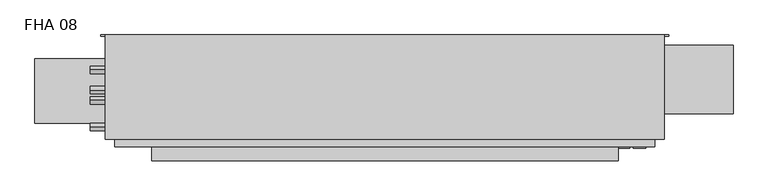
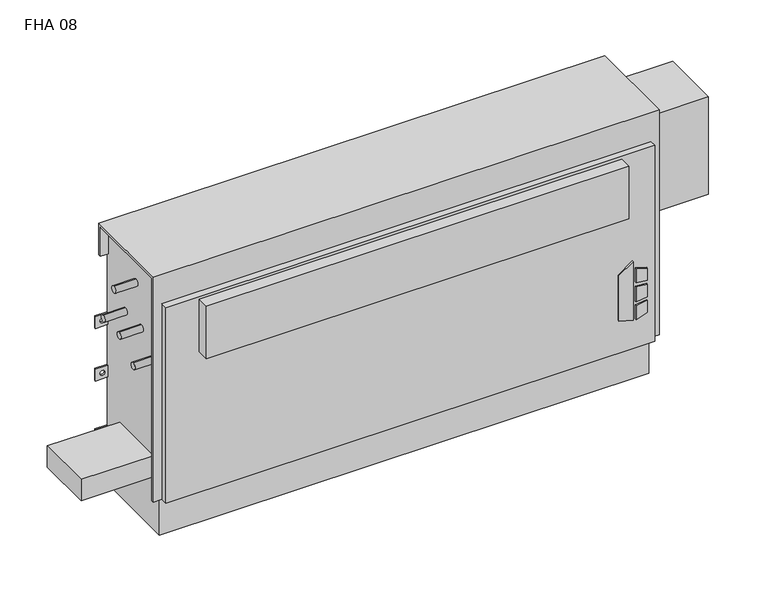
"""IFC4 building model written with IfcOpenShell, lengths in millimetres: proxy geometry, Vertical_Fan_Coil_Unit_-_FHA_-_IEC_-_4-Pipe_FS-FR_LH_2022 : FHA 08."""

from ifc_helpers import new_model, si_unit, point, frame, frame_2d, origin, place, context, project, spatial, polyline, circle_curve, trimmed, segment, composite_curve, outline, extrude, source, transform, mapped, element, save
from ifc_brep_helpers import plane_surface, revolved_surface, advanced_brep


def fha_08_1924b849(model_context):
    return source(origin(), model_context, "Body", "SolidModel", [
        extrude(outline(polyline([(172.5771459, 627.1368862), (162.6290756, 659.3102728), (304.8, 659.3102728), (281.7779939, 627.1368862), (172.5771459, 627.1368862)])), frame((0.0, 9.525, 0.0), z_axis=(0.0, 1.0, 0.0), x_axis=(0.0, 0.0, 1.0)), (0.0, 0.0, 1.0), 3.175),
        extrude(outline(polyline([(251.5764313, 666.0686058), (248.3740387, 692.15), (277.6028798, 692.15), (285.6672948, 666.0686058), (251.5764313, 666.0686058)])), frame((0.0, 9.525, 0.0), z_axis=(0.0, 1.0, 0.0), x_axis=(0.0, 0.0, 1.0)), (0.0, 0.0, 1.0), 3.175),
        extrude(outline(polyline([(199.7129044, 692.15), (196.0474034, 666.0686058), (162.6290756, 666.0686058), (171.2633128, 692.15), (199.7129044, 692.15)])), frame((0.0, 9.525, 0.0), z_axis=(0.0, 1.0, 0.0), x_axis=(0.0, 0.0, 1.0)), (0.0, 0.0, 1.0), 3.175),
        extrude(outline(polyline([(239.0280658, 692.15), (241.3098921, 666.0686058), (205.3723436, 666.0686058), (208.1136086, 692.15), (239.0280658, 692.15)])), frame((0.0, 9.525, 0.0), z_axis=(0.0, 1.0, 0.0), x_axis=(0.0, 0.0, 1.0)), (0.0, 0.0, 1.0), 3.175),
        extrude(outline(composite_curve([segment(trimmed(circle_curve(frame_2d((-469.9, 128.5875)), 9.525), [point((-479.425, 128.5875))], [point((-460.375, 128.5875))], False, "CARTESIAN"), True, "CONTINUOUS"), segment(trimmed(circle_curve(frame_2d((-469.9, 128.5875)), 9.525), [point((-460.375, 128.5875))], [point((-479.425, 128.5875))], False, "CARTESIAN"), True, "CONTINUOUS")], self_intersect=False)), frame((0.0, 0.0, 101.6), z_axis=(0.0, 0.0, 1.0), x_axis=(1.0, 0.0, 0.0)), (0.0, 0.0, 1.0), 25.4),
        extrude(outline(polyline([(-571.5, 61.9125), (-571.5, 195.2625), (-406.4, 195.2625), (-406.4, 61.9125), (-571.5, 61.9125)])), frame((0.0, 0.0, 127.0), z_axis=(0.0, 0.0, 1.0), x_axis=(1.0, 0.0, 0.0)), (0.0, 0.0, 1.0), 50.8),
        extrude(outline(polyline([(635.0, -15.875), (-330.2, -15.875), (-330.2, 12.7), (635.0, 12.7), (635.0, -15.875)])), frame((0.0, 0.0, 431.8), z_axis=(0.0, 0.0, 1.0), x_axis=(1.0, 0.0, 0.0)), (0.0, 0.0, 1.0), 127.0),
        extrude(outline(composite_curve([segment(trimmed(circle_curve(frame_2d((109.0168, 457.2)), 7.9375), [point((109.0168, 465.1375))], [point((109.0168, 449.2625))], False, "CARTESIAN"), True, "CONTINUOUS"), segment(trimmed(circle_curve(frame_2d((109.0168, 457.2)), 7.9375), [point((109.0168, 449.2625))], [point((109.0168, 465.1375))], False, "CARTESIAN"), True, "CONTINUOUS")], self_intersect=False)), frame((-457.2, 0.0, 0.0), z_axis=(1.0, 0.0, 0.0), x_axis=(0.0, 1.0, 0.0)), (0.0, 0.0, 1.0), 50.8),
        extrude(outline(composite_curve([segment(trimmed(circle_curve(frame_2d((172.085, 460.0194)), 7.9375), [point((172.085, 467.9569))], [point((172.085, 452.0819))], False, "CARTESIAN"), True, "CONTINUOUS"), segment(trimmed(circle_curve(frame_2d((172.085, 460.0194)), 7.9375), [point((172.085, 452.0819))], [point((172.085, 467.9569))], False, "CARTESIAN"), True, "CONTINUOUS")], self_intersect=False)), frame((-457.2, 0.0, 0.0), z_axis=(1.0, 0.0, 0.0), x_axis=(0.0, 1.0, 0.0)), (0.0, 0.0, 1.0), 50.8),
        extrude(outline(composite_curve([segment(trimmed(circle_curve(frame_2d((130.175, 554.99)), 7.9502), [point((130.175, 562.9402))], [point((130.175, 547.0398))], False, "CARTESIAN"), True, "CONTINUOUS"), segment(trimmed(circle_curve(frame_2d((130.175, 554.99)), 7.9502), [point((130.175, 547.0398))], [point((130.175, 562.9402))], False, "CARTESIAN"), True, "CONTINUOUS")], self_intersect=False)), frame((-457.2, 0.0, 0.0), z_axis=(1.0, 0.0, 0.0), x_axis=(0.0, 1.0, 0.0)), (0.0, 0.0, 1.0), 50.8),
        extrude(outline(composite_curve([segment(trimmed(circle_curve(frame_2d((53.975, 416.56)), 7.9502), [point((53.975, 424.5102))], [point((53.975, 408.6098))], False, "CARTESIAN"), True, "CONTINUOUS"), segment(trimmed(circle_curve(frame_2d((53.975, 416.56)), 7.9502), [point((53.975, 408.6098))], [point((53.975, 424.5102))], False, "CARTESIAN"), True, "CONTINUOUS")], self_intersect=False)), frame((-457.2, 0.0, 0.0), z_axis=(1.0, 0.0, 0.0), x_axis=(0.0, 1.0, 0.0)), (0.0, 0.0, 1.0), 50.8),
        extrude(outline(polyline([(873.125, 223.266), (873.125, 81.534), (711.2, 81.534), (711.2, 223.266), (873.125, 223.266)])), frame((0.0, 0.0, 349.25), z_axis=(0.0, 0.0, 1.0), x_axis=(1.0, 0.0, 0.0)), (0.0, 0.0, 1.0), 234.95),
        advanced_brep(
        [(730.25, 244.475, 635.0), (-425.45, 244.475, 635.0), (-425.45, 28.575, 635.0), (730.25, 28.575, 635.0), (-406.4, 244.475, 0.0), (711.2, 244.475, 0.0), (711.2, 38.1, 0.0), (-406.4, 38.1, 0.0), (730.25, 244.475, 558.8), (711.2, 244.475, 558.8), (711.2, 244.475, 414.3375), (739.775, 244.475, 414.3375), (739.775, 244.475, 385.7625), (711.2, 244.475, 385.7625), (711.2, 244.475, 287.3375), (739.775, 244.475, 287.3375), (739.775, 244.475, 258.7625), (711.2, 244.475, 258.7625), (711.2, 244.475, 141.2875), (739.775, 244.475, 141.2875), (739.775, 244.475, 112.7125), (711.2, 244.475, 112.7125), (-406.4, 244.475, 112.7125), (-434.975, 244.475, 112.7125), (-434.975, 244.475, 141.2875), (-406.4, 244.475, 141.2875), (-406.4, 244.475, 258.7625), (-434.975, 244.475, 258.7625), (-434.975, 244.475, 287.3375), (-406.4, 244.475, 287.3375), (-406.4, 244.475, 385.7625), (-434.975, 244.475, 385.7625), (-434.975, 244.475, 414.3375), (-406.4, 244.475, 414.3375), (-406.4, 244.475, 558.8), (-425.45, 244.475, 558.8), (729.4626, 244.475, 127.0), (718.3374, 244.475, 127.0), (-413.5374, 244.475, 127.0), (-424.6626, 244.475, 127.0), (729.4626, 244.475, 273.05), (718.3374, 244.475, 273.05), (-413.5374, 244.475, 273.05), (-424.6626, 244.475, 273.05), (729.4626, 244.475, 400.05), (718.3374, 244.475, 400.05), (-413.5374, 244.475, 400.05), (-424.6626, 244.475, 400.05), (-425.45, 238.125, 558.8), (-425.45, 238.125, 628.65), (-425.45, 34.925, 628.65), (-425.45, 34.925, 92.075), (-425.45, 28.575, 92.075), (711.2, 12.7, 565.15), (-406.4, 12.7, 565.15), (-406.4, 12.7, 92.075), (711.2, 12.7, 92.075), (730.25, 28.575, 92.075), (730.25, 34.925, 92.075), (730.25, 34.925, 628.65), (730.25, 238.125, 628.65), (730.25, 238.125, 558.8), (-406.4, 28.575, 92.075), (-406.4, 28.575, 565.15), (711.2, 28.575, 565.15), (711.2, 28.575, 92.075), (-406.4, 34.925, 92.075), (-406.4, 38.1, 92.075), (711.2, 38.1, 92.075), (711.2, 34.925, 92.075), (711.2, 241.3, 112.7125), (711.2, 241.3, 141.2875), (711.2, 241.3, 258.7625), (711.2, 241.3, 287.3375), (711.2, 241.3, 385.7625), (711.2, 241.3, 414.3375), (711.2, 238.125, 558.8), (711.2, 238.125, 628.65), (711.2, 34.925, 628.65), (-406.4, 34.925, 628.65), (-406.4, 238.125, 628.65), (-406.4, 238.125, 558.8), (-406.4, 241.3, 414.3375), (-406.4, 241.3, 385.7625), (-406.4, 241.3, 287.3375), (-406.4, 241.3, 258.7625), (-406.4, 241.3, 141.2875), (-406.4, 241.3, 112.7125), (739.775, 241.3, 112.7125), (739.775, 241.3, 141.2875), (718.3374, 241.3, 127.0), (729.4626, 241.3, 127.0), (739.775, 241.3, 258.7625), (739.775, 241.3, 287.3375), (718.3374, 241.3, 273.05), (729.4626, 241.3, 273.05), (739.775, 241.3, 385.7625), (739.775, 241.3, 414.3375), (718.3374, 241.3, 400.05), (729.4626, 241.3, 400.05), (-434.975, 241.3, 141.2875), (-434.975, 241.3, 112.7125), (-424.6626, 241.3, 127.0), (-413.5374, 241.3, 127.0), (-434.975, 241.3, 287.3375), (-434.975, 241.3, 258.7625), (-424.6626, 241.3, 273.05), (-413.5374, 241.3, 273.05), (-434.975, 241.3, 414.3375), (-434.975, 241.3, 385.7625), (-424.6626, 241.3, 400.05), (-413.5374, 241.3, 400.05)],
        [
            (0, 1),
            (1, 2),
            (2, 3),
            (3, 0),
            (4, 5),
            (5, 6),
            (6, 7),
            (7, 4),
            (0, 8),
            (8, 9),
            (9, 10),
            (10, 11),
            (11, 12),
            (12, 13),
            (13, 14),
            (14, 15),
            (15, 16),
            (16, 17),
            (17, 18),
            (18, 19),
            (19, 20),
            (20, 21),
            (21, 5),
            (4, 22),
            (22, 23),
            (23, 24),
            (24, 25),
            (25, 26),
            (26, 27),
            (27, 28),
            (28, 29),
            (29, 30),
            (30, 31),
            (31, 32),
            (32, 33),
            (33, 34),
            (34, 35),
            (35, 1),
            (36, 37, circle_curve(frame((723.9, 244.475, 127.0), z_axis=(0.0, -1.0, 0.0), x_axis=(-1.0, 0.0, 0.0)), 5.5626)),
            (37, 36, circle_curve(frame((723.9, 244.475, 127.0), z_axis=(0.0, -1.0, 0.0), x_axis=(-1.0, 0.0, 0.0)), 5.5626)),
            (38, 39, circle_curve(frame((-419.1, 244.475, 127.0), z_axis=(0.0, -1.0, 0.0), x_axis=(-1.0, 0.0, 0.0)), 5.5626)),
            (39, 38, circle_curve(frame((-419.1, 244.475, 127.0), z_axis=(0.0, -1.0, 0.0), x_axis=(-1.0, 0.0, 0.0)), 5.5626)),
            (40, 41, circle_curve(frame((723.9, 244.475, 273.05), z_axis=(0.0, -1.0, 0.0), x_axis=(-1.0, 0.0, 0.0)), 5.5626)),
            (41, 40, circle_curve(frame((723.9, 244.475, 273.05), z_axis=(0.0, -1.0, 0.0), x_axis=(-1.0, 0.0, 0.0)), 5.5626)),
            (42, 43, circle_curve(frame((-419.1, 244.475, 273.05), z_axis=(0.0, -1.0, 0.0), x_axis=(-1.0, 0.0, 0.0)), 5.5626)),
            (43, 42, circle_curve(frame((-419.1, 244.475, 273.05), z_axis=(0.0, -1.0, 0.0), x_axis=(-1.0, 0.0, 0.0)), 5.5626)),
            (44, 45, circle_curve(frame((723.9, 244.475, 400.05), z_axis=(0.0, -1.0, 0.0), x_axis=(-1.0, 0.0, 0.0)), 5.5626)),
            (45, 44, circle_curve(frame((723.9, 244.475, 400.05), z_axis=(0.0, -1.0, 0.0), x_axis=(-1.0, 0.0, 0.0)), 5.5626)),
            (46, 47, circle_curve(frame((-419.1, 244.475, 400.05), z_axis=(0.0, -1.0, 0.0), x_axis=(-1.0, 0.0, 0.0)), 5.5626)),
            (47, 46, circle_curve(frame((-419.1, 244.475, 400.05), z_axis=(0.0, -1.0, 0.0), x_axis=(-1.0, 0.0, 0.0)), 5.5626)),
            (35, 48),
            (48, 49),
            (49, 50),
            (50, 51),
            (51, 52),
            (52, 2),
            (53, 54),
            (54, 55),
            (55, 56),
            (56, 53),
            (3, 57),
            (57, 58),
            (58, 59),
            (59, 60),
            (60, 61),
            (61, 8),
            (52, 62),
            (62, 63),
            (63, 64),
            (64, 65),
            (65, 57),
            (53, 64),
            (63, 54),
            (55, 62),
            (51, 66),
            (66, 67),
            (67, 68),
            (68, 69),
            (69, 58),
            (65, 56),
            (6, 68),
            (67, 7),
            (21, 70),
            (70, 71),
            (71, 18),
            (17, 72),
            (72, 73),
            (73, 14),
            (13, 74),
            (74, 75),
            (75, 10),
            (9, 76),
            (76, 77),
            (77, 78),
            (78, 69),
            (66, 79),
            (79, 80),
            (80, 81),
            (81, 34),
            (33, 82),
            (82, 83),
            (83, 30),
            (29, 84),
            (84, 85),
            (85, 26),
            (25, 86),
            (86, 87),
            (87, 22),
            (76, 61),
            (60, 77),
            (78, 59),
            (50, 79),
            (81, 48),
            (80, 49),
            (70, 88),
            (88, 89),
            (89, 71),
            (90, 91, circle_curve(frame((723.9, 241.3, 127.0), z_axis=(0.0, 1.0, 0.0), x_axis=(-1.0, 0.0, 0.0)), 5.5626)),
            (91, 90, circle_curve(frame((723.9, 241.3, 127.0), z_axis=(0.0, 1.0, 0.0), x_axis=(-1.0, 0.0, 0.0)), 5.5626)),
            (92, 93),
            (93, 73),
            (72, 92),
            (94, 95, circle_curve(frame((723.9, 241.3, 273.05), z_axis=(0.0, 1.0, 0.0), x_axis=(-1.0, 0.0, 0.0)), 5.5626)),
            (95, 94, circle_curve(frame((723.9, 241.3, 273.05), z_axis=(0.0, 1.0, 0.0), x_axis=(-1.0, 0.0, 0.0)), 5.5626)),
            (96, 97),
            (97, 75),
            (74, 96),
            (98, 99, circle_curve(frame((723.9, 241.3, 400.05), z_axis=(0.0, 1.0, 0.0), x_axis=(-1.0, 0.0, 0.0)), 5.5626)),
            (99, 98, circle_curve(frame((723.9, 241.3, 400.05), z_axis=(0.0, 1.0, 0.0), x_axis=(-1.0, 0.0, 0.0)), 5.5626)),
            (100, 101),
            (101, 87),
            (86, 100),
            (102, 103, circle_curve(frame((-419.1, 241.3, 127.0), z_axis=(0.0, 1.0, 0.0), x_axis=(-1.0, 0.0, 0.0)), 5.5626)),
            (103, 102, circle_curve(frame((-419.1, 241.3, 127.0), z_axis=(0.0, 1.0, 0.0), x_axis=(-1.0, 0.0, 0.0)), 5.5626)),
            (84, 104),
            (104, 105),
            (105, 85),
            (106, 107, circle_curve(frame((-419.1, 241.3, 273.05), z_axis=(0.0, 1.0, 0.0), x_axis=(-1.0, 0.0, 0.0)), 5.5626)),
            (107, 106, circle_curve(frame((-419.1, 241.3, 273.05), z_axis=(0.0, 1.0, 0.0), x_axis=(-1.0, 0.0, 0.0)), 5.5626)),
            (108, 109),
            (109, 83),
            (82, 108),
            (110, 111, circle_curve(frame((-419.1, 241.3, 400.05), z_axis=(0.0, 1.0, 0.0), x_axis=(-1.0, 0.0, 0.0)), 5.5626)),
            (111, 110, circle_curve(frame((-419.1, 241.3, 400.05), z_axis=(0.0, 1.0, 0.0), x_axis=(-1.0, 0.0, 0.0)), 5.5626)),
            (89, 19),
            (88, 20),
            (16, 92),
            (93, 15),
            (12, 96),
            (97, 11),
            (24, 100),
            (101, 23),
            (105, 27),
            (104, 28),
            (32, 108),
            (109, 31),
            (90, 37),
            (36, 91),
            (102, 39),
            (38, 103),
            (94, 41),
            (40, 95),
            (106, 43),
            (42, 107),
            (98, 45),
            (44, 99),
            (110, 47),
            (46, 111),
        ],
        [
            plane_surface(frame((-425.45, 244.475, 635.0), z_axis=(0.0, 0.0, 1.0), x_axis=(-1.0, 0.0, 0.0))),
            plane_surface(frame((-425.45, 244.475, 0.0), z_axis=(0.0, 0.0, -1.0), x_axis=(1.0, 0.0, 0.0))),
            plane_surface(frame((730.25, 244.475, 635.0), z_axis=(0.0, 1.0, 0.0), x_axis=(0.0, 0.0, -1.0))),
            plane_surface(frame((-425.45, 244.475, 635.0), z_axis=(-1.0, 0.0, 0.0), x_axis=(0.0, 0.0, -1.0))),
            plane_surface(frame((-425.45, 12.7, 635.0), z_axis=(0.0, -1.0, 0.0), x_axis=(0.0, 0.0, -1.0))),
            plane_surface(frame((730.25, 12.7, 635.0), z_axis=(1.0, 0.0, 0.0), x_axis=(0.0, 0.0, -1.0))),
            plane_surface(frame((-704.85, 28.575, 635.0), z_axis=(0.0, -1.0, 0.0), x_axis=(1.0, 0.0, 0.0))),
            plane_surface(frame((-704.85, 28.575, 565.15), z_axis=(0.0, 0.0, 1.0), x_axis=(1.0, 0.0, 0.0))),
            plane_surface(frame((-425.45, 12.7, 92.075), z_axis=(0.0, 0.0, -1.0), x_axis=(1.0, 0.0, 0.0))),
            plane_surface(frame((-425.45, 38.1, 92.075), z_axis=(0.0, -1.0, 0.0), x_axis=(1.0, 0.0, 0.0))),
            plane_surface(frame((711.2, 28.575, 92.075), z_axis=(1.0, 0.0, 0.0), x_axis=(0.0, -1.0, 0.0))),
            plane_surface(frame((-406.4, 28.575, 565.15), z_axis=(-1.0, 0.0, 0.0), x_axis=(0.0, -1.0, 0.0))),
            plane_surface(frame((711.2, 244.475, 0.0), z_axis=(1.0, 0.0, 0.0), x_axis=(0.0, -1.0, 0.0))),
            plane_surface(frame((-406.4, 244.475, 92.075), z_axis=(-1.0, 0.0, 0.0), x_axis=(0.0, -1.0, 0.0))),
            plane_surface(frame((711.2, 238.125, 628.65), z_axis=(0.0, -1.0, 0.0), x_axis=(1.0, 0.0, 0.0))),
            plane_surface(frame((711.2, 238.125, 558.8), z_axis=(0.0, 0.0, -1.0), x_axis=(1.0, 0.0, 0.0))),
            plane_surface(frame((711.2, 34.925, 92.075), z_axis=(0.0, 1.0, 0.0), x_axis=(1.0, 0.0, 0.0))),
            plane_surface(frame((711.2, 34.925, 628.65), z_axis=(0.0, 0.0, -1.0), x_axis=(1.0, 0.0, 0.0))),
            plane_surface(frame((-406.4, 34.925, 628.65), z_axis=(0.0, 1.0, 0.0), x_axis=(-1.0, 0.0, 0.0))),
            plane_surface(frame((-406.4, 244.475, 558.8), z_axis=(0.0, 0.0, -1.0), x_axis=(-1.0, 0.0, 0.0))),
            plane_surface(frame((-406.4, 238.125, 558.8), z_axis=(0.0, -1.0, 0.0), x_axis=(-1.0, 0.0, 0.0))),
            plane_surface(frame((-406.4, 238.125, 628.65), z_axis=(0.0, 0.0, -1.0), x_axis=(-1.0, 0.0, 0.0))),
            plane_surface(frame((739.775, 241.3, 141.2875), z_axis=(0.0, -1.0, 0.0), x_axis=(-1.0, 0.0, 0.0))),
            plane_surface(frame((711.2, 244.475, 141.2875), z_axis=(0.0, 0.0, 1.0), x_axis=(0.0, -1.0, 0.0))),
            plane_surface(frame((739.775, 244.475, 141.2875), z_axis=(1.0, 0.0, 0.0), x_axis=(0.0, -1.0, 0.0))),
            plane_surface(frame((739.775, 244.475, 112.7125), z_axis=(0.0, 0.0, -1.0), x_axis=(0.0, -1.0, 0.0))),
            plane_surface(frame((739.775, 244.475, 258.7625), z_axis=(0.0, 0.0, -1.0), x_axis=(0.0, -1.0, 0.0))),
            plane_surface(frame((711.2, 244.475, 287.3375), z_axis=(0.0, 0.0, 1.0), x_axis=(0.0, -1.0, 0.0))),
            plane_surface(frame((739.775, 244.475, 287.3375), z_axis=(1.0, 0.0, 0.0), x_axis=(0.0, -1.0, 0.0))),
            plane_surface(frame((739.775, 244.475, 385.7625), z_axis=(0.0, 0.0, -1.0), x_axis=(0.0, -1.0, 0.0))),
            plane_surface(frame((711.2, 244.475, 414.3375), z_axis=(0.0, 0.0, 1.0), x_axis=(0.0, -1.0, 0.0))),
            plane_surface(frame((739.775, 244.475, 414.3375), z_axis=(1.0, 0.0, 0.0), x_axis=(0.0, -1.0, 0.0))),
            plane_surface(frame((-434.975, 244.475, 141.2875), z_axis=(0.0, 0.0, 1.0), x_axis=(0.0, -1.0, 0.0))),
            plane_surface(frame((-406.4, 244.475, 112.7125), z_axis=(0.0, 0.0, -1.0), x_axis=(0.0, -1.0, 0.0))),
            plane_surface(frame((-434.975, 244.475, 112.7125), z_axis=(-1.0, 0.0, 0.0), x_axis=(0.0, -1.0, 0.0))),
            plane_surface(frame((-406.4, 244.475, 258.7625), z_axis=(0.0, 0.0, -1.0), x_axis=(0.0, -1.0, 0.0))),
            plane_surface(frame((-434.975, 244.475, 258.7625), z_axis=(-1.0, 0.0, 0.0), x_axis=(0.0, -1.0, 0.0))),
            plane_surface(frame((-434.975, 244.475, 287.3375), z_axis=(0.0, 0.0, 1.0), x_axis=(0.0, -1.0, 0.0))),
            plane_surface(frame((-434.975, 244.475, 414.3375), z_axis=(0.0, 0.0, 1.0), x_axis=(0.0, -1.0, 0.0))),
            plane_surface(frame((-406.4, 244.475, 385.7625), z_axis=(0.0, 0.0, -1.0), x_axis=(0.0, -1.0, 0.0))),
            plane_surface(frame((-434.975, 244.475, 385.7625), z_axis=(-1.0, 0.0, 0.0), x_axis=(0.0, -1.0, 0.0))),
            revolved_surface(polyline([(718.3374, 241.3, 127.0), (718.3374, 244.475, 127.0)]), (723.9, 244.475, 127.0), (0.0, -1.0, 0.0)),
            revolved_surface(polyline([(-424.6626, 241.3, 127.0), (-424.6626, 244.475, 127.0)]), (-419.1, 244.475, 127.0), (0.0, -1.0, 0.0)),
            revolved_surface(polyline([(718.3374, 241.3, 273.05), (718.3374, 244.475, 273.05)]), (723.9, 244.475, 273.05), (0.0, -1.0, 0.0)),
            revolved_surface(polyline([(-424.6626, 241.3, 273.05), (-424.6626, 244.475, 273.05)]), (-419.1, 244.475, 273.05), (0.0, -1.0, 0.0)),
            revolved_surface(polyline([(718.3374, 241.3, 400.05), (718.3374, 244.475, 400.05)]), (723.9, 244.475, 400.05), (0.0, -1.0, 0.0)),
            revolved_surface(polyline([(-424.6626, 241.3, 400.05), (-424.6626, 244.475, 400.05)]), (-419.1, 244.475, 400.05), (0.0, -1.0, 0.0)),
        ],
        [
            (0, [[1, 2, 3, 4]]),
            (1, [[5, 6, 7, 8]]),
            (2, [[-1, 9, 10, 11, 12, 13, 14, 15, 16, 17, 18, 19, 20, 21, 22, 23, -5, 24, 25, 26, 27, 28, 29, 30, 31, 32, 33, 34, 35, 36, 37, 38], [39, 40], [41, 42], [43, 44], [45, 46], [47, 48], [49, 50]]),
            (3, [[-2, -38, 51, 52, 53, 54, 55, 56]]),
            (4, [[57, 58, 59, 60]]),
            (5, [[-4, 61, 62, 63, 64, 65, 66, -9]]),
            (6, [[-3, -56, 67, 68, 69, 70, 71, -61]]),
            (7, [[-57, 72, -69, 73]]),
            (8, [[-59, 74, -67, -55, 75, 76, 77, 78, 79, -62, -71, 80]]),
            (9, [[-7, 81, -77, 82]]),
            (10, [[-70, -72, -60, -80]]),
            (11, [[-68, -74, -58, -73]]),
            (12, [[-6, -23, 83, 84, 85, -19, 86, 87, 88, -15, 89, 90, 91, -11, 92, 93, 94, 95, -78, -81]]),
            (13, [[-8, -82, -76, 96, 97, 98, 99, -36, 100, 101, 102, -32, 103, 104, 105, -28, 106, 107, 108, -24]]),
            (14, [[-93, 109, -65, 110]]),
            (15, [[-92, -10, -66, -109]]),
            (16, [[-95, 111, -63, -79]]),
            (17, [[-94, -110, -64, -111]]),
            (18, [[-96, -75, -54, 112]]),
            (19, [[-99, 113, -51, -37]]),
            (20, [[-98, 114, -52, -113]]),
            (21, [[-97, -112, -53, -114]]),
            (22, [[115, 116, 117, -84], [118, 119]]),
            (22, [[120, 121, -87, 122], [123, 124]]),
            (22, [[125, 126, -90, 127], [128, 129]]),
            (22, [[130, 131, -107, 132], [133, 134]]),
            (22, [[135, 136, 137, -104], [138, 139]]),
            (22, [[140, 141, -101, 142], [143, 144]]),
            (23, [[-117, 145, -20, -85]]),
            (24, [[-116, 146, -21, -145]]),
            (25, [[-115, -83, -22, -146]]),
            (26, [[-122, -86, -18, 147]]),
            (27, [[-121, 148, -16, -88]]),
            (28, [[-120, -147, -17, -148]]),
            (29, [[-127, -89, -14, 149]]),
            (30, [[-126, 150, -12, -91]]),
            (31, [[-125, -149, -13, -150]]),
            (32, [[-132, -106, -27, 151]]),
            (33, [[-131, 152, -25, -108]]),
            (34, [[-130, -151, -26, -152]]),
            (35, [[-137, 153, -29, -105]]),
            (36, [[-136, 154, -30, -153]]),
            (37, [[-135, -103, -31, -154]]),
            (38, [[-142, -100, -35, 155]]),
            (39, [[-141, 156, -33, -102]]),
            (40, [[-140, -155, -34, -156]]),
            (41, [[157, -39, 158, -118]]),
            (41, [[-157, -119, -158, -40]]),
            (42, [[159, -41, 160, -133]]),
            (42, [[-159, -134, -160, -42]]),
            (43, [[161, -43, 162, -123]]),
            (43, [[-161, -124, -162, -44]]),
            (44, [[163, -45, 164, -138]]),
            (44, [[-163, -139, -164, -46]]),
            (45, [[165, -47, 166, -128]]),
            (45, [[-165, -129, -166, -48]]),
            (46, [[167, -49, 168, -143]]),
            (46, [[-167, -144, -168, -50]]),
        ],
    ),
    ])


if __name__ == "__main__":
    model = new_model("IFC4")
    model_context = context("Model", 3, world=origin())
    ifc_project = project(units=[si_unit("LENGTHUNIT", "METRE", prefix="MILLI")], contexts=[model_context])
    site = spatial("IfcSite", under=ifc_project)
    building = spatial("IfcBuilding", under=site)
    placement = place(None, origin())
    fha_08_shape = fha_08_1924b849(model_context)
    element("IfcBuildingElementProxy", 1, Name="Vertical_Fan_Coil_Unit_-_FHA_-_IEC_-_4-Pipe_FS-FR_LH_2022 : FHA 08", ObjectType="Vertical_Fan_Coil_Unit_-_FHA_-_IEC_-_4-Pipe_FS-FR_LH_2022 : FHA 08", at=placement, inside=building, context=model_context, shape_type="MappedRepresentation", body=[
        mapped(fha_08_shape, transform((0.0, 0.0, 0.0), x_axis=(1.0, 0.0, 0.0), y_axis=(0.0, 1.0, 0.0), z_axis=(0.0, 0.0, 1.0))),
    ])
    save(model, "model.ifc")
